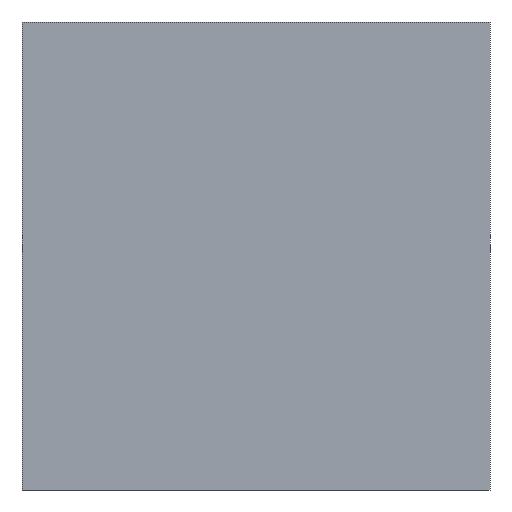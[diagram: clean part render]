
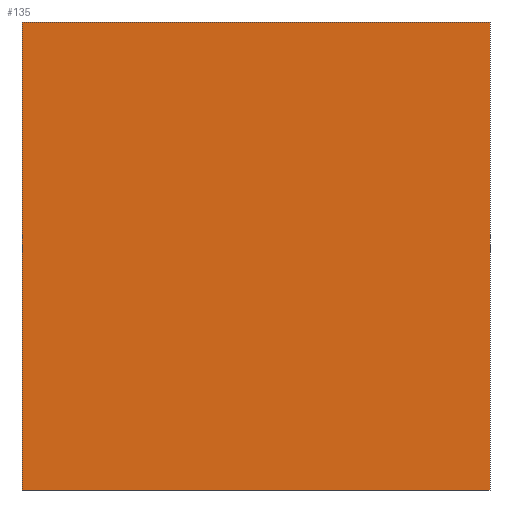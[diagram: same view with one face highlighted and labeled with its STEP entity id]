
A CAD part, front view. The second image highlights one B-rep face of the part: STEP entity #135.
In plain terms, the highlighted planar face has unit normal (0, -1, 0).
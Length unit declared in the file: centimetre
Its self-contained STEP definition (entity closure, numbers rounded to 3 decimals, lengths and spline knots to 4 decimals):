
#7 = LINE ( 'NONE', #132, #79 ) ;
#11 = PLANE ( 'NONE',  #396 ) ;
#23 = LINE ( 'NONE', #309, #363 ) ;
#60 = VERTEX_POINT ( 'NONE', #74 ) ;
#67 = LINE ( 'NONE', #69, #264 ) ;
#69 = CARTESIAN_POINT ( 'NONE',  ( 0., 0., 0. ) ) ;
#70 = CARTESIAN_POINT ( 'NONE',  ( 1000., 0., 0. ) ) ;
#74 = CARTESIAN_POINT ( 'NONE',  ( 1000., 0., 1000. ) ) ;
#77 = FACE_OUTER_BOUND ( 'NONE', #387, .T. ) ;
#79 = VECTOR ( 'NONE', #193, 100. ) ;
#94 = ORIENTED_EDGE ( 'NONE', *, *, #327, .T. ) ;
#132 = CARTESIAN_POINT ( 'NONE',  ( 0., 0., 1000. ) ) ;
#135 = ADVANCED_FACE ( 'NONE', ( #77 ), #11, .F. ) ;
#136 = CARTESIAN_POINT ( 'NONE',  ( 0., 0., 0. ) ) ;
#140 = DIRECTION ( 'NONE',  ( 0., 0., -1. ) ) ;
#181 = EDGE_CURVE ( 'NONE', #385, #384, #67, .T. ) ;
#193 = DIRECTION ( 'NONE',  ( 1., 0., 0. ) ) ;
#195 = EDGE_CURVE ( 'NONE', #201, #60, #7, .T. ) ;
#198 = LINE ( 'NONE', #269, #378 ) ;
#201 = VERTEX_POINT ( 'NONE', #321 ) ;
#212 = EDGE_CURVE ( 'NONE', #60, #384, #23, .T. ) ;
#239 = DIRECTION ( 'NONE',  ( 0., 1., 0. ) ) ;
#264 = VECTOR ( 'NONE', #324, 100. ) ;
#268 = CARTESIAN_POINT ( 'NONE',  ( 0., 0., 1000. ) ) ;
#269 = CARTESIAN_POINT ( 'NONE',  ( 0., 0., 1000. ) ) ;
#309 = CARTESIAN_POINT ( 'NONE',  ( 1000., 0., 1000. ) ) ;
#316 = ORIENTED_EDGE ( 'NONE', *, *, #212, .F. ) ;
#321 = CARTESIAN_POINT ( 'NONE',  ( 0., 0., 1000. ) ) ;
#324 = DIRECTION ( 'NONE',  ( 1., 0., 0. ) ) ;
#325 = ORIENTED_EDGE ( 'NONE', *, *, #181, .T. ) ;
#327 = EDGE_CURVE ( 'NONE', #201, #385, #198, .T. ) ;
#363 = VECTOR ( 'NONE', #375, 100. ) ;
#364 = DIRECTION ( 'NONE',  ( 0., 0., 1. ) ) ;
#365 = ORIENTED_EDGE ( 'NONE', *, *, #195, .F. ) ;
#375 = DIRECTION ( 'NONE',  ( 0., 0., -1. ) ) ;
#378 = VECTOR ( 'NONE', #140, 100. ) ;
#384 = VERTEX_POINT ( 'NONE', #70 ) ;
#385 = VERTEX_POINT ( 'NONE', #136 ) ;
#387 = EDGE_LOOP ( 'NONE', ( #325, #316, #365, #94 ) ) ;
#396 = AXIS2_PLACEMENT_3D ( 'NONE', #268, #239, #364 ) ;
